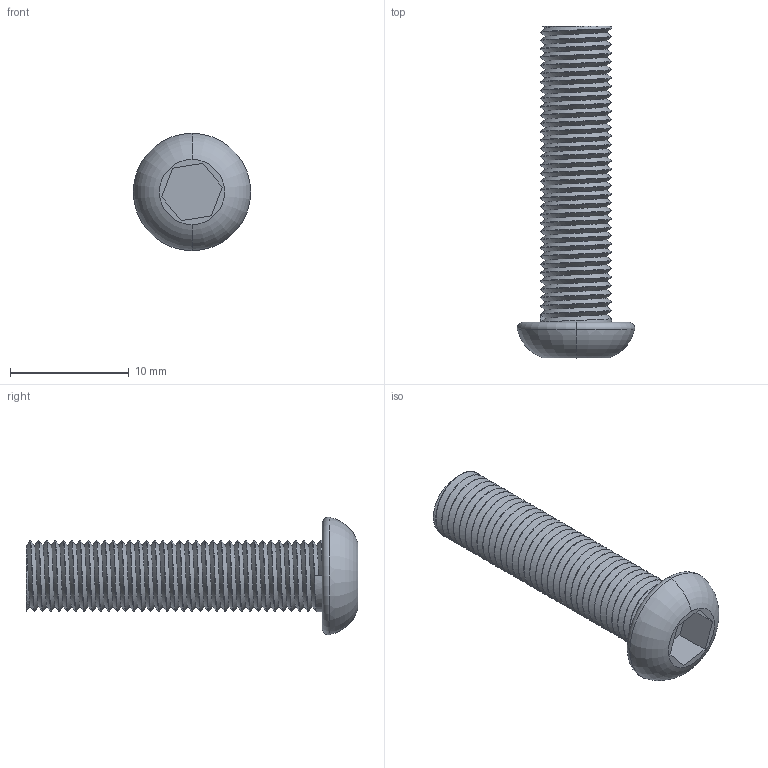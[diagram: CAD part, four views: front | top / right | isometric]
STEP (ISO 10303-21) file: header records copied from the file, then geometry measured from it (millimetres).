
FILE_DESCRIPTION (( 'STEP AP203' ), '1' );
FILE_NAME ('138-CE-FB-6.STEP', '2015-07-09T09:01:12', ( '' ), ( '' ), 'SwSTEP 2.0', 'SolidWorks 2013', '' );
FILE_SCHEMA (( 'CONFIG_CONTROL_DESIGN' ));
Length unit declared in the file: millimetre
Products named in the file (1): 138-CE-FB-6
Bounding box: 9.9 x 28 x 9.9 mm (x, y, z)
Volume: 742.6 mm3; surface area: 947.6 mm2
Topology: 1 solids, 1 shells, 92 faces, 260 edges, 172 vertices
Faces by surface type: cylinder 73, plane 12, torus 4, bspline 3
Entity records: 6709 total; most frequent: CARTESIAN_POINT 4688, ORIENTED_EDGE 520, DIRECTION 305, EDGE_CURVE 260, VERTEX_POINT 172, AXIS2_PLACEMENT_3D 106, EDGE_LOOP 94, LINE 93
